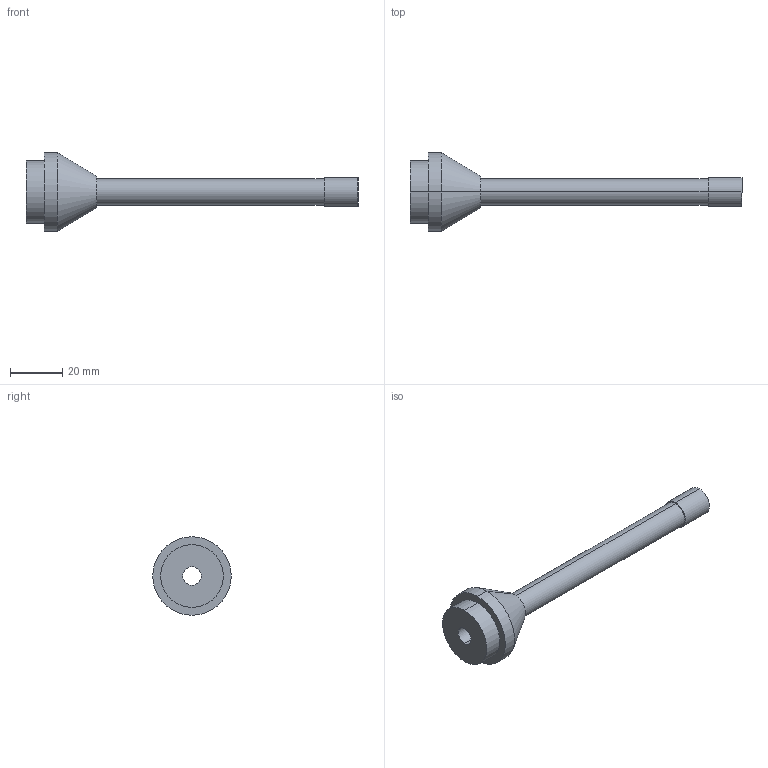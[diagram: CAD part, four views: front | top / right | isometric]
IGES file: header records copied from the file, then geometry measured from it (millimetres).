
Start section: SolidWorks IGES FILE using analytic representation for surfaces
Global section: file name: \\intra-srv04\開発データ\CAD_Data\CAD委員会\3D電子ｶﾀﾛｸﾞ\製品カタログ（新）\0_IGES\ER-AD10.IGS,41HSolidWorks 2004; native system: by SolidWorks Corporation; preprocessor: Version 5.3; author: mf1158; date: 050905.161259; units: millimetre
Bounding box: 127 x 30 x 30 mm (x, y, z)
Volume: 15395.4 mm3; surface area: 8904.4 mm2
Topology: 1 solids, 1 shells, 17 faces, 34 edges, 22 vertices
Faces by surface type: revolution 12, plane 5
